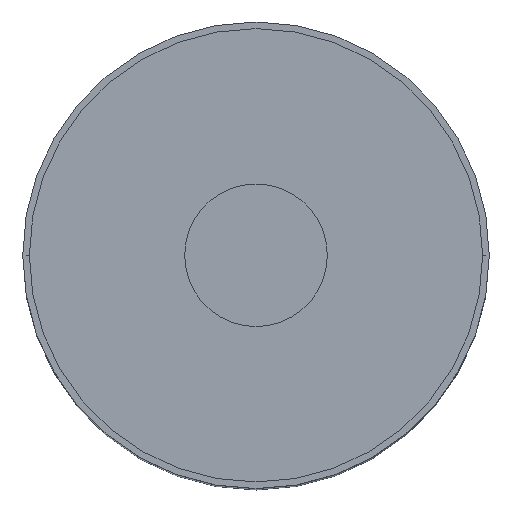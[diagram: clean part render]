
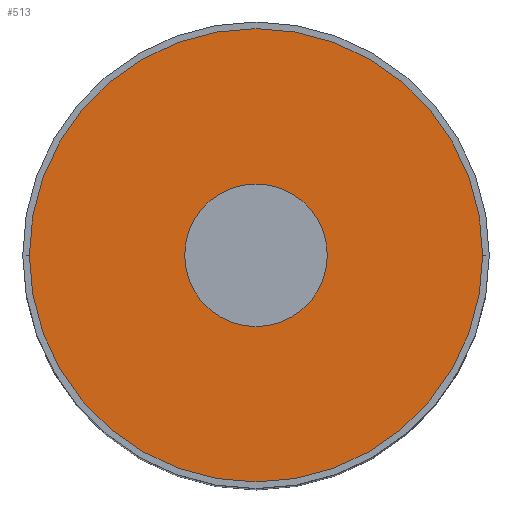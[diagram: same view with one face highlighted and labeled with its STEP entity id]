
A CAD part, top view. The second image highlights one B-rep face of the part: STEP entity #513.
In plain terms, the highlighted planar face has unit normal (0, 0, 1).
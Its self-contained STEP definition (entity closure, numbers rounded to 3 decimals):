
#1 = AXIS2_PLACEMENT_3D ( 'NONE', #761, #5, #477 ) ;
#5 = DIRECTION ( 'NONE',  ( 0., 0., -1. ) ) ;
#49 = DIRECTION ( 'NONE',  ( 0., 0., -1. ) ) ;
#60 = AXIS2_PLACEMENT_3D ( 'NONE', #333, #304, #488 ) ;
#92 = CARTESIAN_POINT ( 'NONE',  ( -5.5, 0., 70.075 ) ) ;
#116 = CIRCLE ( 'NONE', #1, 5.5 ) ;
#118 = DIRECTION ( 'NONE',  ( -1., 0., 0. ) ) ;
#137 = AXIS2_PLACEMENT_3D ( 'NONE', #539, #218, #118 ) ;
#140 = CARTESIAN_POINT ( 'NONE',  ( 0., 0., 70.075 ) ) ;
#209 = AXIS2_PLACEMENT_3D ( 'NONE', #229, #481, #779 ) ;
#218 = DIRECTION ( 'NONE',  ( 0., 0., -1. ) ) ;
#229 = CARTESIAN_POINT ( 'NONE',  ( 0., 0., 70.075 ) ) ;
#242 = AXIS2_PLACEMENT_3D ( 'NONE', #140, #49, #708 ) ;
#280 = CIRCLE ( 'NONE', #209, 5.5 ) ;
#304 = DIRECTION ( 'NONE',  ( 0., 0., -1. ) ) ;
#318 = VERTEX_POINT ( 'NONE', #92 ) ;
#333 = CARTESIAN_POINT ( 'NONE',  ( 0., 0., 70.075 ) ) ;
#391 = EDGE_CURVE ( 'NONE', #510, #504, #751, .T. ) ;
#408 = ORIENTED_EDGE ( 'NONE', *, *, #391, .F. ) ;
#415 = EDGE_LOOP ( 'NONE', ( #731, #408 ) ) ;
#437 = EDGE_CURVE ( 'NONE', #318, #556, #280, .T. ) ;
#454 = CARTESIAN_POINT ( 'NONE',  ( 17.488, 0., 70.075 ) ) ;
#477 = DIRECTION ( 'NONE',  ( -1., 0., 0. ) ) ;
#481 = DIRECTION ( 'NONE',  ( 0., 0., -1. ) ) ;
#488 = DIRECTION ( 'NONE',  ( -1., 0., 0. ) ) ;
#504 = VERTEX_POINT ( 'NONE', #506 ) ;
#506 = CARTESIAN_POINT ( 'NONE',  ( -17.488, 0., 70.075 ) ) ;
#509 = EDGE_LOOP ( 'NONE', ( #541, #695 ) ) ;
#510 = VERTEX_POINT ( 'NONE', #454 ) ;
#513 = ADVANCED_FACE ( 'NONE', ( #830, #579 ), #796, .F. ) ;
#539 = CARTESIAN_POINT ( 'NONE',  ( 0., 5.5, 70.075 ) ) ;
#541 = ORIENTED_EDGE ( 'NONE', *, *, #437, .T. ) ;
#556 = VERTEX_POINT ( 'NONE', #611 ) ;
#579 = FACE_BOUND ( 'NONE', #509, .T. ) ;
#611 = CARTESIAN_POINT ( 'NONE',  ( 5.5, 0., 70.075 ) ) ;
#648 = EDGE_CURVE ( 'NONE', #504, #510, #816, .T. ) ;
#673 = EDGE_CURVE ( 'NONE', #556, #318, #116, .T. ) ;
#695 = ORIENTED_EDGE ( 'NONE', *, *, #673, .T. ) ;
#708 = DIRECTION ( 'NONE',  ( -1., 0., 0. ) ) ;
#731 = ORIENTED_EDGE ( 'NONE', *, *, #648, .F. ) ;
#751 = CIRCLE ( 'NONE', #242, 17.488 ) ;
#761 = CARTESIAN_POINT ( 'NONE',  ( 0., 0., 70.075 ) ) ;
#779 = DIRECTION ( 'NONE',  ( -1., 0., 0. ) ) ;
#796 = PLANE ( 'NONE',  #137 ) ;
#816 = CIRCLE ( 'NONE', #60, 17.488 ) ;
#830 = FACE_OUTER_BOUND ( 'NONE', #415, .T. ) ;
